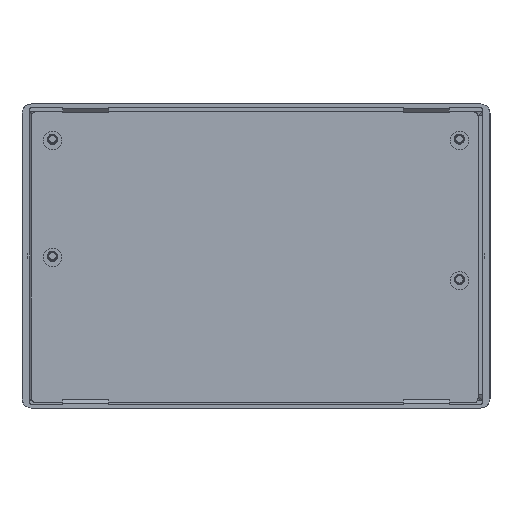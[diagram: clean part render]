
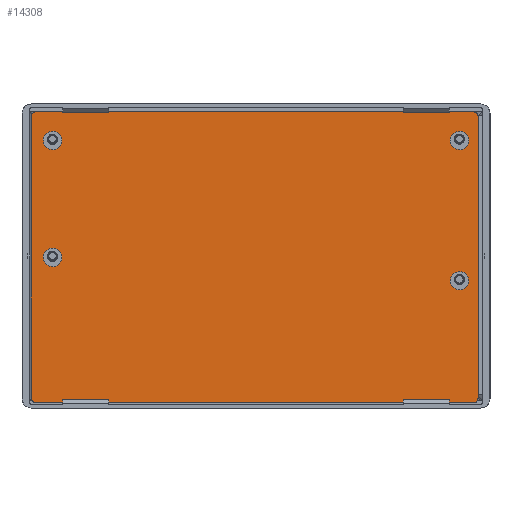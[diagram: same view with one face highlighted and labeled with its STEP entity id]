
A CAD part, top view. The second image highlights one B-rep face of the part: STEP entity #14308.
In plain terms, the highlighted planar face has unit normal (0, 0, 1).
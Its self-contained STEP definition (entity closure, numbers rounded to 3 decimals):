
#13590=CARTESIAN_POINT('',(50.789,13.26,0.43));
#13591=VERTEX_POINT('',#13590);
#13600=CARTESIAN_POINT('',(48.789,13.26,0.43));
#13601=VERTEX_POINT('',#13600);
#13602=CARTESIAN_POINT('',(49.789,13.26,0.43));
#13603=DIRECTION('',(0.0,0.0,-1.0));
#13604=DIRECTION('',(1.0,0.0,0.0));
#13605=AXIS2_PLACEMENT_3D('',#13602,#13603,#13604);
#13606=CIRCLE('',#13605,1.0);
#13607=EDGE_CURVE('',#13601,#13591,#13606,.T.);
#13632=CARTESIAN_POINT('',(6.589,15.8,0.43));
#13633=VERTEX_POINT('',#13632);
#13642=CARTESIAN_POINT('',(4.589,15.8,0.43));
#13643=VERTEX_POINT('',#13642);
#13644=CARTESIAN_POINT('',(5.589,15.8,0.43));
#13645=DIRECTION('',(0.0,0.0,-1.0));
#13646=DIRECTION('',(1.0,0.0,0.0));
#13647=AXIS2_PLACEMENT_3D('',#13644,#13645,#13646);
#13648=CIRCLE('',#13647,1.0);
#13649=EDGE_CURVE('',#13643,#13633,#13648,.T.);
#13674=CARTESIAN_POINT('',(6.589,28.5,0.43));
#13675=VERTEX_POINT('',#13674);
#13684=CARTESIAN_POINT('',(4.589,28.5,0.43));
#13685=VERTEX_POINT('',#13684);
#13686=CARTESIAN_POINT('',(5.589,28.5,0.43));
#13687=DIRECTION('',(0.0,0.0,-1.0));
#13688=DIRECTION('',(1.0,0.0,0.0));
#13689=AXIS2_PLACEMENT_3D('',#13686,#13687,#13688);
#13690=CIRCLE('',#13689,1.0);
#13691=EDGE_CURVE('',#13685,#13675,#13690,.T.);
#13716=CARTESIAN_POINT('',(50.789,28.5,0.43));
#13717=VERTEX_POINT('',#13716);
#13726=CARTESIAN_POINT('',(48.789,28.5,0.43));
#13727=VERTEX_POINT('',#13726);
#13728=CARTESIAN_POINT('',(49.789,28.5,0.43));
#13729=DIRECTION('',(0.0,0.0,-1.0));
#13730=DIRECTION('',(1.0,0.0,0.0));
#13731=AXIS2_PLACEMENT_3D('',#13728,#13729,#13730);
#13732=CIRCLE('',#13731,1.0);
#13733=EDGE_CURVE('',#13727,#13717,#13732,.T.);
#13760=CARTESIAN_POINT('',(3.435,31.454,0.43));
#13761=VERTEX_POINT('',#13760);
#13777=CARTESIAN_POINT('',(3.289,31.1,0.43));
#13778=VERTEX_POINT('',#13777);
#13785=CARTESIAN_POINT('',(3.789,31.1,0.43));
#13786=DIRECTION('',(0.0,0.0,-1.0));
#13787=DIRECTION('',(-0.707,0.707,0.0));
#13788=AXIS2_PLACEMENT_3D('',#13785,#13786,#13787);
#13789=CIRCLE('',#13788,0.5);
#13790=EDGE_CURVE('',#13778,#13761,#13789,.T.);
#13802=CARTESIAN_POINT('',(3.435,0.146,0.43));
#13803=VERTEX_POINT('',#13802);
#13819=CARTESIAN_POINT('',(3.789,0.,0.43));
#13820=VERTEX_POINT('',#13819);
#13827=CARTESIAN_POINT('',(3.789,0.5,0.43));
#13828=DIRECTION('',(0.0,0.0,-1.0));
#13829=DIRECTION('',(-0.707,-0.707,0.0));
#13830=AXIS2_PLACEMENT_3D('',#13827,#13828,#13829);
#13831=CIRCLE('',#13830,0.5);
#13832=EDGE_CURVE('',#13820,#13803,#13831,.T.);
#13844=CARTESIAN_POINT('',(51.642,0.146,0.43));
#13845=VERTEX_POINT('',#13844);
#13861=CARTESIAN_POINT('',(51.789,0.5,0.43));
#13862=VERTEX_POINT('',#13861);
#13869=CARTESIAN_POINT('',(51.289,0.5,0.43));
#13870=DIRECTION('',(0.0,0.0,-1.));
#13871=DIRECTION('',(0.707,-0.707,0.0));
#13872=AXIS2_PLACEMENT_3D('',#13869,#13870,#13871);
#13873=CIRCLE('',#13872,0.5);
#13874=EDGE_CURVE('',#13862,#13845,#13873,.T.);
#13886=CARTESIAN_POINT('',(51.642,31.454,0.43));
#13887=VERTEX_POINT('',#13886);
#13903=CARTESIAN_POINT('',(51.289,31.6,0.43));
#13904=VERTEX_POINT('',#13903);
#13911=CARTESIAN_POINT('',(51.289,31.1,0.43));
#13912=DIRECTION('',(0.0,0.0,-1.));
#13913=DIRECTION('',(0.707,0.707,0.0));
#13914=AXIS2_PLACEMENT_3D('',#13911,#13912,#13913);
#13915=CIRCLE('',#13914,0.5);
#13916=EDGE_CURVE('',#13904,#13887,#13915,.T.);
#13927=CARTESIAN_POINT('',(51.789,31.1,0.43));
#13928=VERTEX_POINT('',#13927);
#13929=CARTESIAN_POINT('',(51.289,31.1,0.43));
#13930=DIRECTION('',(0.0,0.0,-1.));
#13931=DIRECTION('',(0.707,0.707,0.0));
#13932=AXIS2_PLACEMENT_3D('',#13929,#13930,#13931);
#13933=CIRCLE('',#13932,0.5);
#13934=EDGE_CURVE('',#13887,#13928,#13933,.T.);
#13968=CARTESIAN_POINT('',(3.789,31.6,0.43));
#13969=VERTEX_POINT('',#13968);
#13976=CARTESIAN_POINT('',(3.789,31.6,0.43));
#13977=DIRECTION('',(1.0,0.0,0.0));
#13978=VECTOR('',#13977,47.5);
#13979=LINE('',#13976,#13978);
#13980=EDGE_CURVE('',#13969,#13904,#13979,.T.);
#14088=CARTESIAN_POINT('',(51.289,0.,0.43));
#14089=VERTEX_POINT('',#14088);
#14090=CARTESIAN_POINT('',(51.289,0.5,0.43));
#14091=DIRECTION('',(0.0,0.0,-1.));
#14092=DIRECTION('',(0.707,-0.707,0.0));
#14093=AXIS2_PLACEMENT_3D('',#14090,#14091,#14092);
#14094=CIRCLE('',#14093,0.5);
#14095=EDGE_CURVE('',#13845,#14089,#14094,.T.);
#14113=CARTESIAN_POINT('',(51.289,0.,0.43));
#14114=DIRECTION('',(-1.0,0.0,0.0));
#14115=VECTOR('',#14114,47.5);
#14116=LINE('',#14113,#14115);
#14117=EDGE_CURVE('',#14089,#13820,#14116,.T.);
#14130=CARTESIAN_POINT('',(3.289,0.5,0.43));
#14131=VERTEX_POINT('',#14130);
#14132=CARTESIAN_POINT('',(3.789,0.5,0.43));
#14133=DIRECTION('',(0.0,0.0,-1.0));
#14134=DIRECTION('',(-0.707,-0.707,0.0));
#14135=AXIS2_PLACEMENT_3D('',#14132,#14133,#14134);
#14136=CIRCLE('',#14135,0.5);
#14137=EDGE_CURVE('',#13803,#14131,#14136,.T.);
#14155=CARTESIAN_POINT('',(3.789,31.1,0.43));
#14156=DIRECTION('',(0.0,0.0,-1.0));
#14157=DIRECTION('',(-0.707,0.707,0.0));
#14158=AXIS2_PLACEMENT_3D('',#14155,#14156,#14157);
#14159=CIRCLE('',#14158,0.5);
#14160=EDGE_CURVE('',#13761,#13969,#14159,.T.);
#14175=CARTESIAN_POINT('',(49.789,28.5,0.43));
#14176=DIRECTION('',(0.0,0.0,-1.0));
#14177=DIRECTION('',(1.0,0.0,0.0));
#14178=AXIS2_PLACEMENT_3D('',#14175,#14176,#14177);
#14179=CIRCLE('',#14178,1.0);
#14180=EDGE_CURVE('',#13717,#13727,#14179,.T.);
#14193=CARTESIAN_POINT('',(5.589,28.5,0.43));
#14194=DIRECTION('',(0.0,0.0,-1.0));
#14195=DIRECTION('',(1.0,0.0,0.0));
#14196=AXIS2_PLACEMENT_3D('',#14193,#14194,#14195);
#14197=CIRCLE('',#14196,1.0);
#14198=EDGE_CURVE('',#13675,#13685,#14197,.T.);
#14211=CARTESIAN_POINT('',(5.589,15.8,0.43));
#14212=DIRECTION('',(0.0,0.0,-1.0));
#14213=DIRECTION('',(1.0,0.0,0.0));
#14214=AXIS2_PLACEMENT_3D('',#14211,#14212,#14213);
#14215=CIRCLE('',#14214,1.0);
#14216=EDGE_CURVE('',#13633,#13643,#14215,.T.);
#14229=CARTESIAN_POINT('',(49.789,13.26,0.43));
#14230=DIRECTION('',(0.0,0.0,-1.0));
#14231=DIRECTION('',(1.0,0.0,0.0));
#14232=AXIS2_PLACEMENT_3D('',#14229,#14230,#14231);
#14233=CIRCLE('',#14232,1.0);
#14234=EDGE_CURVE('',#13591,#13601,#14233,.T.);
#14245=CARTESIAN_POINT('',(3.289,0.5,0.43));
#14246=DIRECTION('',(0.0,1.0,0.0));
#14247=VECTOR('',#14246,30.6);
#14248=LINE('',#14245,#14247);
#14249=EDGE_CURVE('',#14131,#13778,#14248,.T.);
#14262=CARTESIAN_POINT('',(51.789,31.1,0.43));
#14263=DIRECTION('',(0.0,-1.0,0.0));
#14264=VECTOR('',#14263,30.6);
#14265=LINE('',#14262,#14264);
#14266=EDGE_CURVE('',#13928,#13862,#14265,.T.);
#14273=CARTESIAN_POINT('',(27.539,15.8,0.43));
#14274=DIRECTION('',(0.0,0.0,1.0));
#14275=DIRECTION('',(1.0,0.0,0.0));
#14276=AXIS2_PLACEMENT_3D('',#14273,#14274,#14275);
#14277=PLANE('',#14276);
#14278=ORIENTED_EDGE('',*,*,#13916,.F.);
#14279=ORIENTED_EDGE('',*,*,#13980,.F.);
#14280=ORIENTED_EDGE('',*,*,#14160,.F.);
#14281=ORIENTED_EDGE('',*,*,#13790,.F.);
#14282=ORIENTED_EDGE('',*,*,#14249,.F.);
#14283=ORIENTED_EDGE('',*,*,#14137,.F.);
#14284=ORIENTED_EDGE('',*,*,#13832,.F.);
#14285=ORIENTED_EDGE('',*,*,#14117,.F.);
#14286=ORIENTED_EDGE('',*,*,#14095,.F.);
#14287=ORIENTED_EDGE('',*,*,#13874,.F.);
#14288=ORIENTED_EDGE('',*,*,#14266,.F.);
#14289=ORIENTED_EDGE('',*,*,#13934,.F.);
#14290=EDGE_LOOP('',(#14278,#14279,#14280,#14281,#14282,#14283,#14284,#14285,#14286,#14287,#14288,#14289));
#14291=FACE_OUTER_BOUND('',#14290,.T.);
#14292=ORIENTED_EDGE('',*,*,#13733,.T.);
#14293=ORIENTED_EDGE('',*,*,#14180,.T.);
#14294=EDGE_LOOP('',(#14292,#14293));
#14295=FACE_BOUND('',#14294,.T.);
#14296=ORIENTED_EDGE('',*,*,#13691,.T.);
#14297=ORIENTED_EDGE('',*,*,#14198,.T.);
#14298=EDGE_LOOP('',(#14296,#14297));
#14299=FACE_BOUND('',#14298,.T.);
#14300=ORIENTED_EDGE('',*,*,#13649,.T.);
#14301=ORIENTED_EDGE('',*,*,#14216,.T.);
#14302=EDGE_LOOP('',(#14300,#14301));
#14303=FACE_BOUND('',#14302,.T.);
#14304=ORIENTED_EDGE('',*,*,#13607,.T.);
#14305=ORIENTED_EDGE('',*,*,#14234,.T.);
#14306=EDGE_LOOP('',(#14304,#14305));
#14307=FACE_BOUND('',#14306,.T.);
#14308=ADVANCED_FACE('',(#14291,#14295,#14299,#14303,#14307),#14277,.T.);
